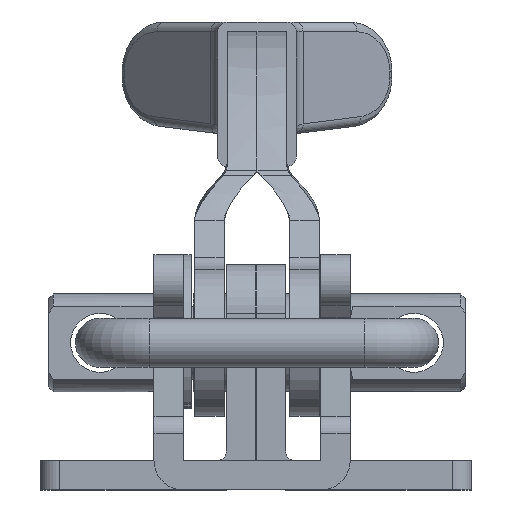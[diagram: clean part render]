
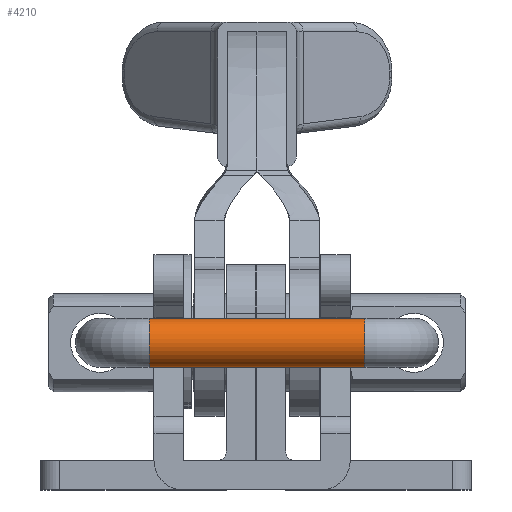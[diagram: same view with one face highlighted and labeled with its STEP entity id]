
A CAD part, left-side view. The second image highlights one B-rep face of the part: STEP entity #4210.
In plain terms, the highlighted cylindrical face has radius 2.5 mm (diameter 5 mm), a full revolution.
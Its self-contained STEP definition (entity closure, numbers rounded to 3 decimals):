
#295=FACE_BOUND('',#1475,.T.);
#1040=CYLINDRICAL_SURFACE('',#4543,2.5);
#1186=FACE_OUTER_BOUND('',#1474,.T.);
#1474=EDGE_LOOP('',(#3209));
#1475=EDGE_LOOP('',(#3210));
#1744=CIRCLE('',#4542,2.5);
#1745=CIRCLE('',#4544,2.5);
#1985=VERTEX_POINT('',#6581);
#1986=VERTEX_POINT('',#6584);
#2440=EDGE_CURVE('',#1985,#1985,#1744,.T.);
#2441=EDGE_CURVE('',#1986,#1986,#1745,.T.);
#3209=ORIENTED_EDGE('',*,*,#2440,.F.);
#3210=ORIENTED_EDGE('',*,*,#2441,.T.);
#4210=ADVANCED_FACE('',(#1186,#295),#1040,.T.);
#4542=AXIS2_PLACEMENT_3D('',#6582,#5235,#5236);
#4543=AXIS2_PLACEMENT_3D('',#6583,#5237,#5238);
#4544=AXIS2_PLACEMENT_3D('',#6585,#5239,#5240);
#5235=DIRECTION('center_axis',(0.,-1.,0.));
#5236=DIRECTION('ref_axis',(1.,0.,0.));
#5237=DIRECTION('center_axis',(0.,-1.,0.));
#5238=DIRECTION('ref_axis',(1.,0.,0.));
#5239=DIRECTION('center_axis',(0.,-1.,0.));
#5240=DIRECTION('ref_axis',(1.,0.,0.));
#6581=CARTESIAN_POINT('',(-62.75,-11.,0.));
#6582=CARTESIAN_POINT('Origin',(-60.25,-11.,0.));
#6583=CARTESIAN_POINT('Origin',(-60.25,11.,0.));
#6584=CARTESIAN_POINT('',(-62.75,11.,0.));
#6585=CARTESIAN_POINT('Origin',(-60.25,11.,0.));
